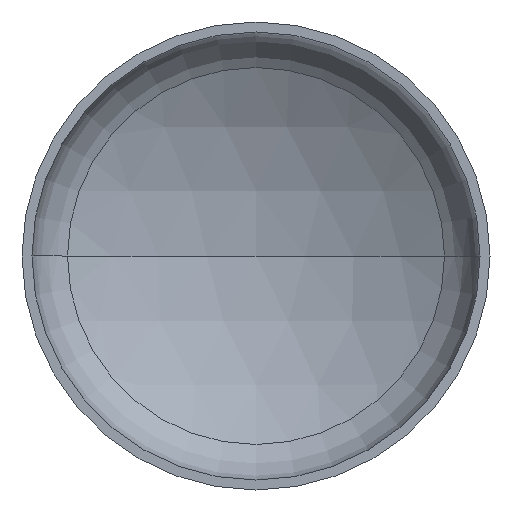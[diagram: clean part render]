
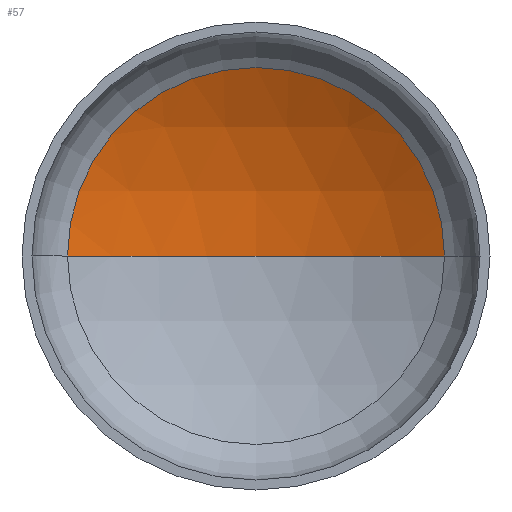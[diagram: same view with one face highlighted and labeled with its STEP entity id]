
A CAD part, front view. The second image highlights one B-rep face of the part: STEP entity #57.
In plain terms, the highlighted spherical face has radius 1280 mm.
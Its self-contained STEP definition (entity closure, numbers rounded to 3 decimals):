
#14 = ORIENTED_EDGE ( 'NONE', *, *, #75, .T. ) ;
#31 = AXIS2_PLACEMENT_3D ( 'NONE', #83, #299, #114 ) ;
#32 = AXIS2_PLACEMENT_3D ( 'NONE', #200, #194, #199 ) ;
#33 = AXIS2_PLACEMENT_3D ( 'NONE', #309, #307, #215 ) ;
#40 = EDGE_LOOP ( 'NONE', ( #222, #14, #195 ) ) ;
#51 = AXIS2_PLACEMENT_3D ( 'NONE', #252, #300, #295 ) ;
#57 = ADVANCED_FACE ( 'NONE', ( #238 ), #168, .F. ) ;
#73 = EDGE_CURVE ( 'NONE', #149, #198, #139, .T. ) ;
#75 = EDGE_CURVE ( 'NONE', #216, #149, #410, .T. ) ;
#82 = EDGE_CURVE ( 'NONE', #216, #198, #292, .T. ) ;
#83 = CARTESIAN_POINT ( 'NONE',  ( 0., -784.306, 0. ) ) ;
#114 = DIRECTION ( 'NONE',  ( 1., 0., 0. ) ) ;
#139 = CIRCLE ( 'NONE', #33, 644.329 ) ;
#149 = VERTEX_POINT ( 'NONE', #206 ) ;
#168 = SPHERICAL_SURFACE ( 'NONE', #51, 1280. ) ;
#188 = CARTESIAN_POINT ( 'NONE',  ( -644.329, 321.696, 0. ) ) ;
#194 = DIRECTION ( 'NONE',  ( 0., 0., -1. ) ) ;
#195 = ORIENTED_EDGE ( 'NONE', *, *, #73, .T. ) ;
#198 = VERTEX_POINT ( 'NONE', #188 ) ;
#199 = DIRECTION ( 'NONE',  ( -1., 0., 0. ) ) ;
#200 = CARTESIAN_POINT ( 'NONE',  ( 0., -784.306, 0. ) ) ;
#206 = CARTESIAN_POINT ( 'NONE',  ( 644.329, 321.696, 0. ) ) ;
#215 = DIRECTION ( 'NONE',  ( 1., 0., 0. ) ) ;
#216 = VERTEX_POINT ( 'NONE', #289 ) ;
#222 = ORIENTED_EDGE ( 'NONE', *, *, #82, .F. ) ;
#238 = FACE_OUTER_BOUND ( 'NONE', #40, .T. ) ;
#252 = CARTESIAN_POINT ( 'NONE',  ( 0., -784.306, 0. ) ) ;
#289 = CARTESIAN_POINT ( 'NONE',  ( 0., 495.694, 0. ) ) ;
#292 = CIRCLE ( 'NONE', #31, 1280. ) ;
#295 = DIRECTION ( 'NONE',  ( -1., 0., 0. ) ) ;
#299 = DIRECTION ( 'NONE',  ( 0., 0., 1. ) ) ;
#300 = DIRECTION ( 'NONE',  ( 0., 0., -1. ) ) ;
#307 = DIRECTION ( 'NONE',  ( 0., -1., 0. ) ) ;
#309 = CARTESIAN_POINT ( 'NONE',  ( 0., 321.696, 0. ) ) ;
#410 = CIRCLE ( 'NONE', #32, 1280. ) ;
